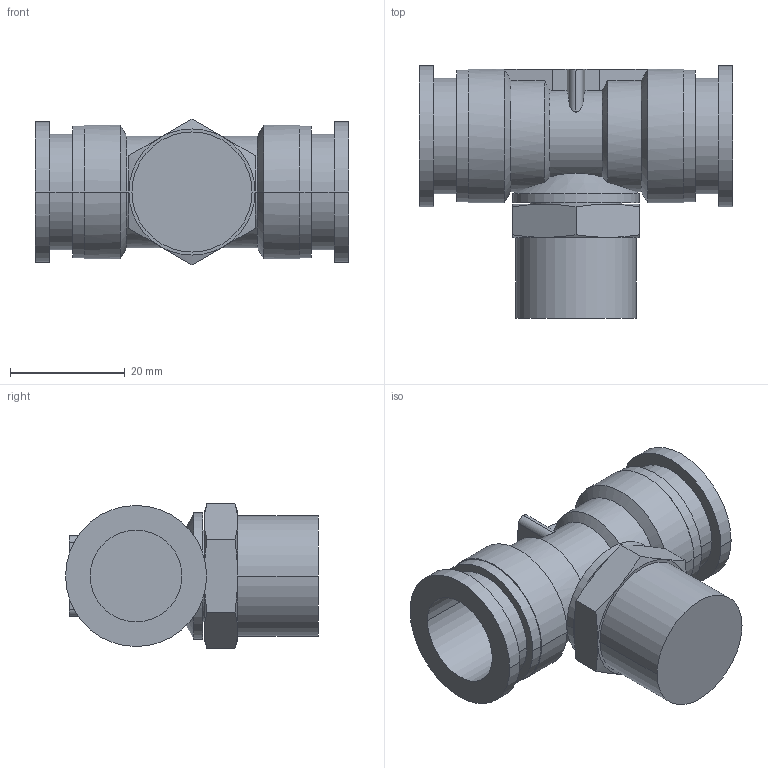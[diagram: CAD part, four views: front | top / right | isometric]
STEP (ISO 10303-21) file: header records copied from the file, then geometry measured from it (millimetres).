
FILE_DESCRIPTION( ( '' ), '1' );
FILE_NAME( 'G:/SMC狟婥/KQ2T16-04AS.stp', '2023-03-07T03:15:09', ( '' ), ( '' ), ' ', ' ', ' ' );
FILE_SCHEMA( ( 'CONFIG_CONTROL_DESIGN' ) );
Length unit declared in the file: millimetre
Products named in the file (1): 1
Bounding box: 54.6 x 44.1 x 25.4 mm (x, y, z)
Volume: 19070 mm3; surface area: 9906.5 mm2
Topology: 1 solids, 1 shells, 95 faces, 222 edges, 140 vertices
Faces by surface type: cylinder 40, plane 33, cone 22
Entity records: 3011 total; most frequent: CARTESIAN_POINT 833, DIRECTION 464, ORIENTED_EDGE 444, EDGE_CURVE 222, AXIS2_PLACEMENT_3D 196, VERTEX_POINT 140, EDGE_LOOP 106, ADVANCED_FACE 95
